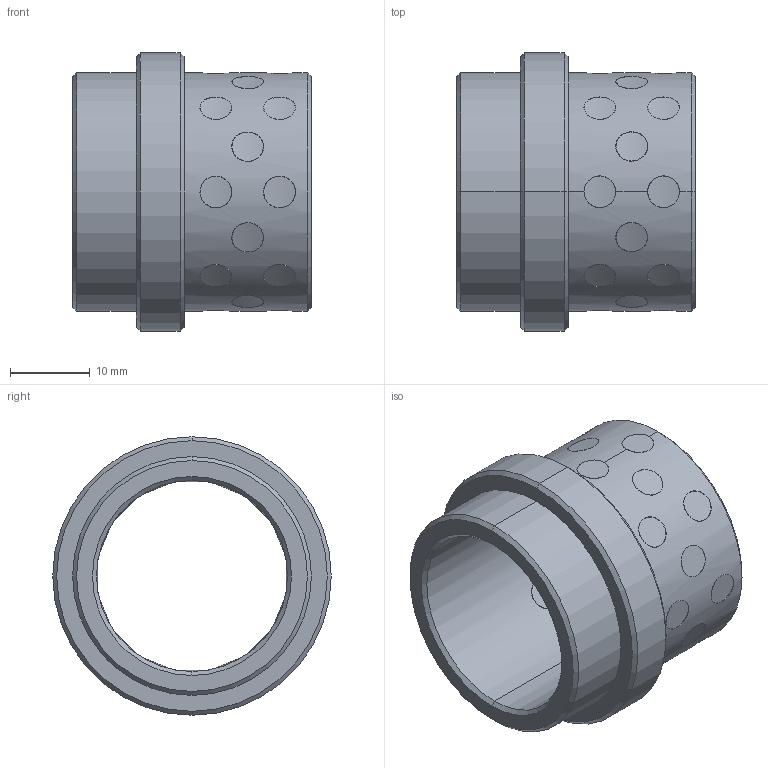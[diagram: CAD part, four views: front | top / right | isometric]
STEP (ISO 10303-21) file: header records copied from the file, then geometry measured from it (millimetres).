
FILE_DESCRIPTION((''),'2;1');
FILE_NAME('G31224022','2017-12-30T',('MANU'),(''),'PRO/ENGINEER BY PARAMETRIC TECHNOLOGY CORPORATION, 2012130','PRO/ENGINEER BY PARAMETRIC TECHNOLOGY CORPORATION, 2012130','');
FILE_SCHEMA(('CONFIG_CONTROL_DESIGN'));
Length unit declared in the file: millimetre
Products named in the file (1): G31224022
Bounding box: 30 x 35 x 35 mm (x, y, z)
Volume: 9073.3 mm3; surface area: 7831.8 mm2
Topology: 25 solids, 25 shells, 168 faces, 360 edges, 236 vertices
Faces by surface type: cylinder 152, cone 12, plane 4
Entity records: 7490 total; most frequent: CARTESIAN_POINT 4124, ORIENTED_EDGE 720, DIRECTION 516, EDGE_CURVE 360, VERTEX_POINT 236, EDGE_LOOP 212, B_SPLINE_CURVE_WITH_KNOTS 208, AXIS2_PLACEMENT_3D 196
